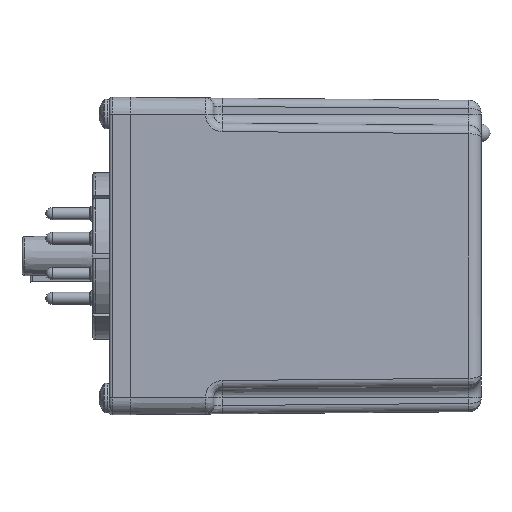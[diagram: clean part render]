
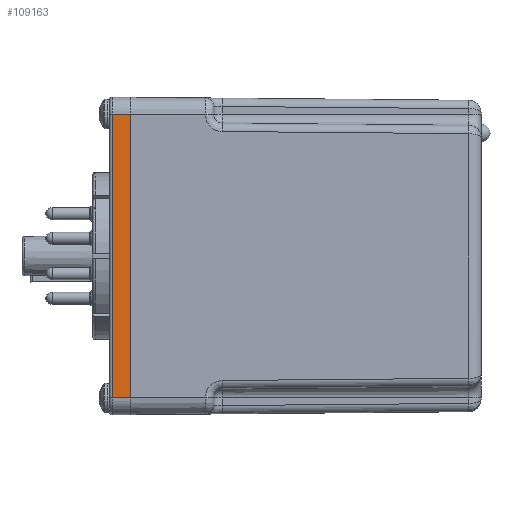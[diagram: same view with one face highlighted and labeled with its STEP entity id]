
A CAD part, left-side view. The second image highlights one B-rep face of the part: STEP entity #109163.
In plain terms, the highlighted planar face has unit normal (-1, 0, 0).
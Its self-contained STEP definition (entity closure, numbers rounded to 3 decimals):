
#89025 = PLANE('',#89026);
#89026 = AXIS2_PLACEMENT_3D('',#89027,#89028,#89029);
#89027 = CARTESIAN_POINT('',(-22.225,111.1,-30.163));
#89028 = DIRECTION('',(0.,1.,0.));
#89029 = DIRECTION('',(1.,0.,-0.));
#95948 = VERTEX_POINT('',#95949);
#95949 = CARTESIAN_POINT('',(-22.225,111.1,26.988));
#95968 = CYLINDRICAL_SURFACE('',#95969,3.175);
#95969 = AXIS2_PLACEMENT_3D('',#95970,#95971,#95972);
#95970 = CARTESIAN_POINT('',(-19.05,111.1,26.988));
#95971 = DIRECTION('',(0.,1.,0.));
#95972 = DIRECTION('',(0.,0.,-1.));
#95980 = EDGE_CURVE('',#95981,#95948,#95983,.T.);
#95981 = VERTEX_POINT('',#95982);
#95982 = CARTESIAN_POINT('',(-22.225,111.1,-26.988));
#95983 = SURFACE_CURVE('',#95984,(#95988,#95995),.PCURVE_S1.);
#95984 = LINE('',#95985,#95986);
#95985 = CARTESIAN_POINT('',(-22.225,111.1,-30.163));
#95986 = VECTOR('',#95987,1.);
#95987 = DIRECTION('',(0.,-0.,1.));
#95988 = PCURVE('',#89025,#95989);
#95989 = DEFINITIONAL_REPRESENTATION('',(#95990),#95994);
#95990 = LINE('',#95991,#95992);
#95991 = CARTESIAN_POINT('',(0.,0.));
#95992 = VECTOR('',#95993,1.);
#95993 = DIRECTION('',(0.,-1.));
#95994 = ( GEOMETRIC_REPRESENTATION_CONTEXT(2) 
PARAMETRIC_REPRESENTATION_CONTEXT() REPRESENTATION_CONTEXT('2D SPACE',''
  ) );
#95995 = PCURVE('',#95996,#96001);
#95996 = PLANE('',#95997);
#95997 = AXIS2_PLACEMENT_3D('',#95998,#95999,#96000);
#95998 = CARTESIAN_POINT('',(-22.225,111.1,-30.163));
#95999 = DIRECTION('',(1.,0.,0.));
#96000 = DIRECTION('',(0.,0.,-1.));
#96001 = DEFINITIONAL_REPRESENTATION('',(#96002),#96006);
#96002 = LINE('',#96003,#96004);
#96003 = CARTESIAN_POINT('',(0.,0.));
#96004 = VECTOR('',#96005,1.);
#96005 = DIRECTION('',(-1.,0.));
#96006 = ( GEOMETRIC_REPRESENTATION_CONTEXT(2) 
PARAMETRIC_REPRESENTATION_CONTEXT() REPRESENTATION_CONTEXT('2D SPACE',''
  ) );
#96029 = CYLINDRICAL_SURFACE('',#96030,3.175);
#96030 = AXIS2_PLACEMENT_3D('',#96031,#96032,#96033);
#96031 = CARTESIAN_POINT('',(-19.05,115.062,-26.988));
#96032 = DIRECTION('',(0.,-1.,0.));
#96033 = DIRECTION('',(0.,0.,1.));
#104242 = CYLINDRICAL_SURFACE('',#104243,0.508);
#104243 = AXIS2_PLACEMENT_3D('',#104244,#104245,#104246);
#104244 = CARTESIAN_POINT('',(-21.717,114.554,-30.163));
#104245 = DIRECTION('',(0.,0.,1.));
#104246 = DIRECTION('',(1.,0.,0.));
#109163 = ADVANCED_FACE('',(#109164),#95996,.F.);
#109164 = FACE_BOUND('',#109165,.T.);
#109165 = EDGE_LOOP('',(#109166,#109189,#109212,#109233));
#109166 = ORIENTED_EDGE('',*,*,#109167,.T.);
#109167 = EDGE_CURVE('',#95948,#109168,#109170,.T.);
#109168 = VERTEX_POINT('',#109169);
#109169 = CARTESIAN_POINT('',(-22.225,114.554,26.988));
#109170 = SURFACE_CURVE('',#109171,(#109175,#109182),.PCURVE_S1.);
#109171 = LINE('',#109172,#109173);
#109172 = CARTESIAN_POINT('',(-22.225,111.1,26.988));
#109173 = VECTOR('',#109174,1.);
#109174 = DIRECTION('',(0.,1.,0.));
#109175 = PCURVE('',#95996,#109176);
#109176 = DEFINITIONAL_REPRESENTATION('',(#109177),#109181);
#109177 = LINE('',#109178,#109179);
#109178 = CARTESIAN_POINT('',(-57.15,0.));
#109179 = VECTOR('',#109180,1.);
#109180 = DIRECTION('',(0.,1.));
#109181 = ( GEOMETRIC_REPRESENTATION_CONTEXT(2) 
PARAMETRIC_REPRESENTATION_CONTEXT() REPRESENTATION_CONTEXT('2D SPACE',''
  ) );
#109182 = PCURVE('',#95968,#109183);
#109183 = DEFINITIONAL_REPRESENTATION('',(#109184),#109188);
#109184 = LINE('',#109185,#109186);
#109185 = CARTESIAN_POINT('',(1.571,0.));
#109186 = VECTOR('',#109187,1.);
#109187 = DIRECTION('',(0.,1.));
#109188 = ( GEOMETRIC_REPRESENTATION_CONTEXT(2) 
PARAMETRIC_REPRESENTATION_CONTEXT() REPRESENTATION_CONTEXT('2D SPACE',''
  ) );
#109189 = ORIENTED_EDGE('',*,*,#109190,.T.);
#109190 = EDGE_CURVE('',#109168,#109191,#109193,.T.);
#109191 = VERTEX_POINT('',#109192);
#109192 = CARTESIAN_POINT('',(-22.225,114.554,-26.988));
#109193 = SURFACE_CURVE('',#109194,(#109198,#109205),.PCURVE_S1.);
#109194 = LINE('',#109195,#109196);
#109195 = CARTESIAN_POINT('',(-22.225,114.554,-30.163));
#109196 = VECTOR('',#109197,1.);
#109197 = DIRECTION('',(0.,0.,-1.));
#109198 = PCURVE('',#95996,#109199);
#109199 = DEFINITIONAL_REPRESENTATION('',(#109200),#109204);
#109200 = LINE('',#109201,#109202);
#109201 = CARTESIAN_POINT('',(0.,3.454));
#109202 = VECTOR('',#109203,1.);
#109203 = DIRECTION('',(1.,0.));
#109204 = ( GEOMETRIC_REPRESENTATION_CONTEXT(2) 
PARAMETRIC_REPRESENTATION_CONTEXT() REPRESENTATION_CONTEXT('2D SPACE',''
  ) );
#109205 = PCURVE('',#104242,#109206);
#109206 = DEFINITIONAL_REPRESENTATION('',(#109207),#109211);
#109207 = LINE('',#109208,#109209);
#109208 = CARTESIAN_POINT('',(3.142,0.));
#109209 = VECTOR('',#109210,1.);
#109210 = DIRECTION('',(0.,-1.));
#109211 = ( GEOMETRIC_REPRESENTATION_CONTEXT(2) 
PARAMETRIC_REPRESENTATION_CONTEXT() REPRESENTATION_CONTEXT('2D SPACE',''
  ) );
#109212 = ORIENTED_EDGE('',*,*,#109213,.T.);
#109213 = EDGE_CURVE('',#109191,#95981,#109214,.T.);
#109214 = SURFACE_CURVE('',#109215,(#109219,#109226),.PCURVE_S1.);
#109215 = LINE('',#109216,#109217);
#109216 = CARTESIAN_POINT('',(-22.225,111.1,-26.988));
#109217 = VECTOR('',#109218,1.);
#109218 = DIRECTION('',(0.,-1.,0.));
#109219 = PCURVE('',#95996,#109220);
#109220 = DEFINITIONAL_REPRESENTATION('',(#109221),#109225);
#109221 = LINE('',#109222,#109223);
#109222 = CARTESIAN_POINT('',(-3.175,0.));
#109223 = VECTOR('',#109224,1.);
#109224 = DIRECTION('',(0.,-1.));
#109225 = ( GEOMETRIC_REPRESENTATION_CONTEXT(2) 
PARAMETRIC_REPRESENTATION_CONTEXT() REPRESENTATION_CONTEXT('2D SPACE',''
  ) );
#109226 = PCURVE('',#96029,#109227);
#109227 = DEFINITIONAL_REPRESENTATION('',(#109228),#109232);
#109228 = LINE('',#109229,#109230);
#109229 = CARTESIAN_POINT('',(1.571,3.962));
#109230 = VECTOR('',#109231,1.);
#109231 = DIRECTION('',(0.,1.));
#109232 = ( GEOMETRIC_REPRESENTATION_CONTEXT(2) 
PARAMETRIC_REPRESENTATION_CONTEXT() REPRESENTATION_CONTEXT('2D SPACE',''
  ) );
#109233 = ORIENTED_EDGE('',*,*,#95980,.T.);
